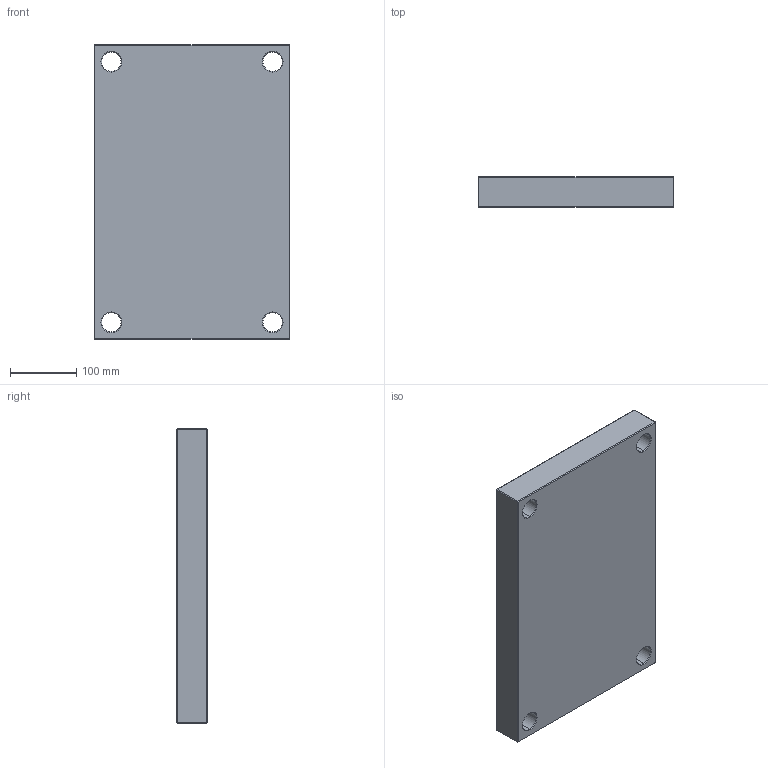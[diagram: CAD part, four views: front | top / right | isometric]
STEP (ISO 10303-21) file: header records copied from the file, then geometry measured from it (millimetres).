
FILE_DESCRIPTION (( 'STEP AP214' ), '1' );
FILE_NAME ('PCX-296x446x46.STEP', '2020-05-04T08:25:32', ( 'August' ), ( '' ), 'SwSTEP 2.0', 'SolidWorks 2018', '' );
FILE_SCHEMA (( 'AUTOMOTIVE_DESIGN' ));
Length unit declared in the file: millimetre
Products named in the file (1): PCX-296x446x46
Bounding box: 296 x 46 x 446 mm (x, y, z)
Volume: 5926354.6 mm3; surface area: 345597.9 mm2
Topology: 1 solids, 1 shells, 82 faces, 168 edges, 96 vertices
Faces by surface type: plane 34, cone 24, cylinder 24
Entity records: 2170 total; most frequent: DIRECTION 406, CARTESIAN_POINT 347, ORIENTED_EDGE 336, EDGE_CURVE 168, AXIS2_PLACEMENT_3D 155, EDGE_LOOP 98, VERTEX_POINT 96, VECTOR 96
